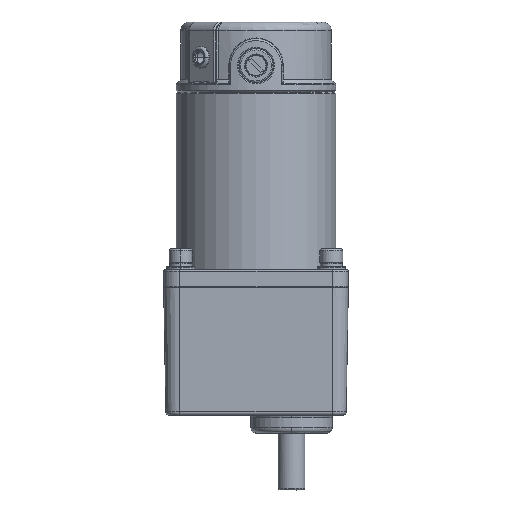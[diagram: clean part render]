
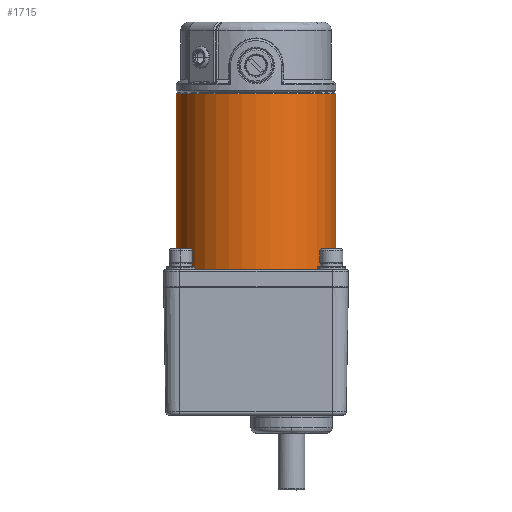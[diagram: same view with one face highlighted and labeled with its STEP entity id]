
A CAD part, front view. The second image highlights one B-rep face of the part: STEP entity #1715.
In plain terms, the highlighted cylindrical face has radius 45 mm (diameter 90 mm), a partial arc.
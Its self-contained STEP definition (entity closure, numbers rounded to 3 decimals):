
#103 = VERTEX_POINT ( 'NONE', #9664 ) ;
#211 = VERTEX_POINT ( 'NONE', #20914 ) ;
#422 = AXIS2_PLACEMENT_3D ( 'NONE', #11867, #22790, #3090 ) ;
#1715 = ADVANCED_FACE ( 'NONE', ( #3767 ), #10680, .T. ) ;
#2366 = VECTOR ( 'NONE', #13927, 1000. ) ;
#3090 = DIRECTION ( 'NONE',  ( 0., 0., 1. ) ) ;
#3421 = CARTESIAN_POINT ( 'NONE',  ( -7.759, 0.828, 0. ) ) ;
#3767 = FACE_OUTER_BOUND ( 'NONE', #8898, .T. ) ;
#5171 = DIRECTION ( 'NONE',  ( 0., 0., 1. ) ) ;
#5367 = CARTESIAN_POINT ( 'NONE',  ( -7.759, 0., -45. ) ) ;
#6923 = ORIENTED_EDGE ( 'NONE', *, *, #16862, .T. ) ;
#7022 = DIRECTION ( 'NONE',  ( 0., 0., 1. ) ) ;
#7539 = CARTESIAN_POINT ( 'NONE',  ( -7.759, 0., 45. ) ) ;
#8457 = DIRECTION ( 'NONE',  ( 0., 1., 0. ) ) ;
#8802 = DIRECTION ( 'NONE',  ( 0., 0., 1. ) ) ;
#8898 = EDGE_LOOP ( 'NONE', ( #20483, #14477, #22767, #6923, #16920 ) ) ;
#9095 = EDGE_CURVE ( 'NONE', #16091, #11406, #13993, .T. ) ;
#9201 = VERTEX_POINT ( 'NONE', #18344 ) ;
#9664 = CARTESIAN_POINT ( 'NONE',  ( -7.759, 100., -45. ) ) ;
#9835 = EDGE_CURVE ( 'NONE', #16091, #9201, #22916, .T. ) ;
#10650 = CARTESIAN_POINT ( 'NONE',  ( -7.759, 100., 45. ) ) ;
#10680 = CYLINDRICAL_SURFACE ( 'NONE', #12355, 45. ) ;
#10904 = CARTESIAN_POINT ( 'NONE',  ( -7.759, 0., 0. ) ) ;
#11406 = VERTEX_POINT ( 'NONE', #10650 ) ;
#11867 = CARTESIAN_POINT ( 'NONE',  ( -7.759, 0.828, 0. ) ) ;
#12355 = AXIS2_PLACEMENT_3D ( 'NONE', #10904, #17959, #8802 ) ;
#13553 = EDGE_CURVE ( 'NONE', #211, #103, #15816, .T. ) ;
#13662 = AXIS2_PLACEMENT_3D ( 'NONE', #21101, #14396, #7022 ) ;
#13927 = DIRECTION ( 'NONE',  ( 0., 1., 0. ) ) ;
#13993 = LINE ( 'NONE', #7539, #15827 ) ;
#14396 = DIRECTION ( 'NONE',  ( 0., -1., 0. ) ) ;
#14477 = ORIENTED_EDGE ( 'NONE', *, *, #14567, .T. ) ;
#14567 = EDGE_CURVE ( 'NONE', #9201, #211, #16224, .T. ) ;
#14685 = DIRECTION ( 'NONE',  ( 0., 1., 0. ) ) ;
#15816 = LINE ( 'NONE', #5367, #2366 ) ;
#15827 = VECTOR ( 'NONE', #14685, 1000. ) ;
#16091 = VERTEX_POINT ( 'NONE', #20469 ) ;
#16224 = CIRCLE ( 'NONE', #17368, 45. ) ;
#16862 = EDGE_CURVE ( 'NONE', #103, #11406, #22682, .T. ) ;
#16920 = ORIENTED_EDGE ( 'NONE', *, *, #9095, .F. ) ;
#17368 = AXIS2_PLACEMENT_3D ( 'NONE', #3421, #8457, #5171 ) ;
#17959 = DIRECTION ( 'NONE',  ( 0., 1., 0. ) ) ;
#18344 = CARTESIAN_POINT ( 'NONE',  ( 37.241, 0.828, 0. ) ) ;
#20469 = CARTESIAN_POINT ( 'NONE',  ( -7.759, 0.828, 45. ) ) ;
#20483 = ORIENTED_EDGE ( 'NONE', *, *, #9835, .T. ) ;
#20914 = CARTESIAN_POINT ( 'NONE',  ( -7.759, 0.828, -45. ) ) ;
#21101 = CARTESIAN_POINT ( 'NONE',  ( -7.759, 100., 0. ) ) ;
#22682 = CIRCLE ( 'NONE', #13662, 45. ) ;
#22767 = ORIENTED_EDGE ( 'NONE', *, *, #13553, .T. ) ;
#22790 = DIRECTION ( 'NONE',  ( 0., 1., 0. ) ) ;
#22916 = CIRCLE ( 'NONE', #422, 45. ) ;
